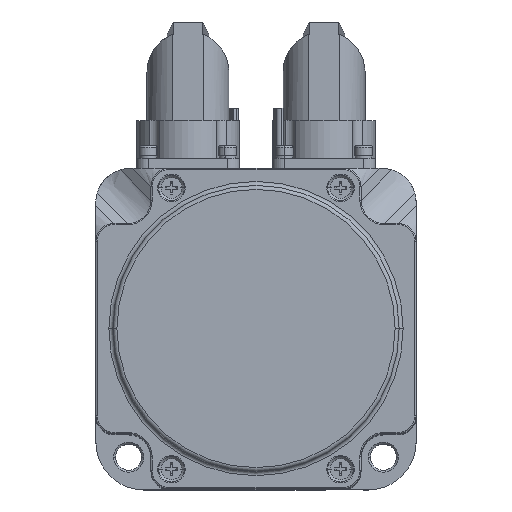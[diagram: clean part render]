
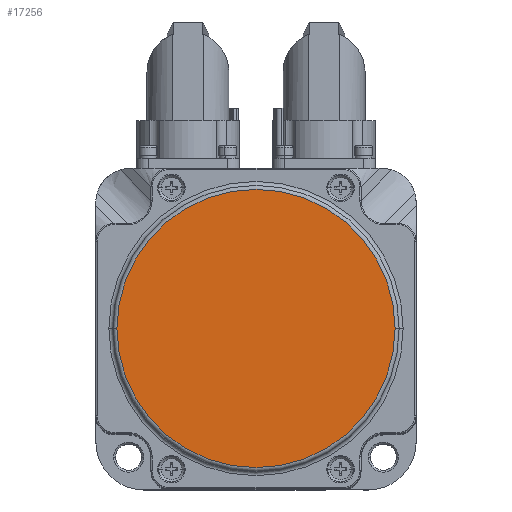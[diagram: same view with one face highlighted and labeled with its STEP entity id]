
A CAD part, top view. The second image highlights one B-rep face of the part: STEP entity #17256.
In plain terms, the highlighted planar face has unit normal (0, 0, 1).
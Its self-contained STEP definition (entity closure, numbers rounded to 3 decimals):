
#305 = ORIENTED_EDGE ( 'NONE', *, *, #15726, .T. ) ;
#306 = ORIENTED_EDGE ( 'NONE', *, *, #15952, .T. ) ;
#15726 = EDGE_CURVE ( 'NONE', #18228, #18227, #34744, .T. ) ;
#15952 = EDGE_CURVE ( 'NONE', #18227, #18228, #34969, .T. ) ;
#17256 = ADVANCED_FACE ( 'NONE', ( #42935 ), #43791, .T. ) ;
#18227 = VERTEX_POINT ( 'NONE', #45316 ) ;
#18228 = VERTEX_POINT ( 'NONE', #45317 ) ;
#25246 = EDGE_LOOP ( 'NONE', ( #305, #306 ) ) ;
#33668 = CARTESIAN_POINT ( 'NONE',  ( 0., 0., 6.5 ) ) ;
#33669 = DIRECTION ( 'NONE',  ( 0., 0., 1. ) ) ;
#33670 = DIRECTION ( 'NONE',  ( 1., 0., 0. ) ) ;
#34673 = CARTESIAN_POINT ( 'NONE',  ( 0., 0., 6.5 ) ) ;
#34674 = DIRECTION ( 'NONE',  ( 0., 0., 1. ) ) ;
#34675 = DIRECTION ( 'NONE',  ( 1., 0., 0. ) ) ;
#34744 = CIRCLE ( 'NONE', #34745, 34.75 ) ;
#34745 = AXIS2_PLACEMENT_3D ( 'NONE', #33668, #33669, #33670 ) ;
#34969 = CIRCLE ( 'NONE', #34981, 34.75 ) ;
#34981 = AXIS2_PLACEMENT_3D ( 'NONE', #34673, #34674, #34675 ) ;
#40121 = AXIS2_PLACEMENT_3D ( 'NONE', #43792, #43793, #43794 ) ;
#42935 = FACE_OUTER_BOUND ( 'NONE', #25246, .T. ) ;
#43791 = PLANE ( 'NONE',  #40121 ) ;
#43792 = CARTESIAN_POINT ( 'NONE',  ( 0., 0., 6.5 ) ) ;
#43793 = DIRECTION ( 'NONE',  ( 0., 0., 1. ) ) ;
#43794 = DIRECTION ( 'NONE',  ( 1., 0., 0. ) ) ;
#45316 = CARTESIAN_POINT ( 'NONE',  ( -34.75, 0., 6.5 ) ) ;
#45317 = CARTESIAN_POINT ( 'NONE',  ( 34.75, 0., 6.5 ) ) ;
